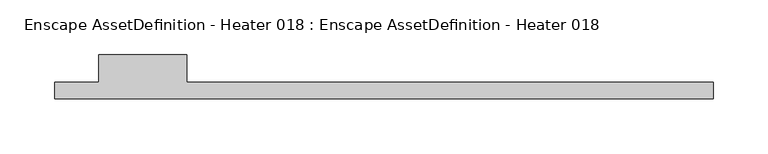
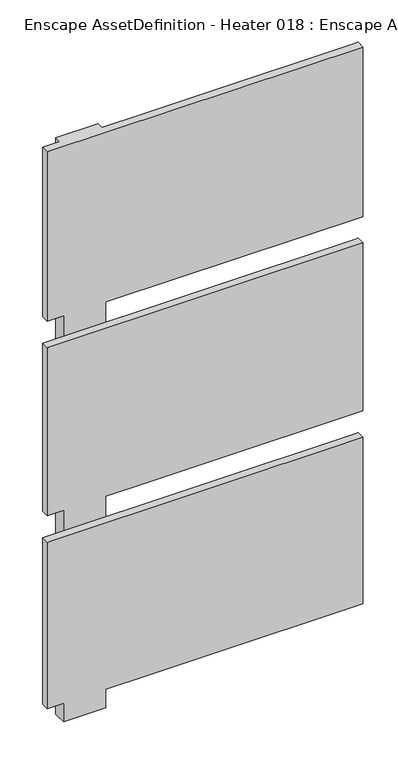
"""IFC4 building model written with IfcOpenShell, lengths in millimetres: geographic element geometry, Enscape AssetDefinition - Heater 018 : Enscape AssetDefinition - Heater 018."""

from ifc_helpers import new_model, si_unit, origin, place, context, project, spatial, triangles, source, transform, mapped, element, save


def enscape_assetdefinition_heater_018_enscape_assetdefinition_5c8a2fdc(model_context):
    return source(origin(), model_context, "Body", "Tessellation", [
        triangles([(-259.9999911, 0.0, 1156.0000059), (-180.000005, -25.0000002, 0.0), (-180.000005, -25.0000002, 1156.0000059), (-259.9999911, -25.0000002, 1156.0000059), (-259.9999911, -25.0000002, 0.0), (-180.000005, 0.0, 0.0), (-259.9999911, 0.0, 0.0), (-180.000005, 0.0, 1156.0000059), (300.0000205, -25.0000002, 825.9999453), (-300.0000205, -25.0000002, 1165.9999769), (-300.0000205, -25.0000002, 825.9999453), (-300.0000205, -39.9999976, 825.9999453), (300.0000205, -25.0000002, 1165.9999769), (300.0000205, -39.9999976, 1165.9999769), (300.0000205, -39.9999976, 825.9999453), (-300.0000205, -39.9999976, 1165.9999769), (-300.0000205, -25.0000002, 772.9999826), (-300.0000205, -39.9999976, 436.0010033), (300.0000205, -39.9999976, 436.0010033), (-300.0000205, -25.0000002, 436.0010033), (300.0000205, -25.0000002, 436.0010033), (300.0000205, -25.0000002, 772.9999826), (300.0000205, -39.9999976, 772.9999826), (-300.0000205, -39.9999976, 772.9999826), (-300.0000205, -25.0000002, 49.0010016), (300.0000205, -39.9999976, 49.0010016), (-300.0000205, -39.9999976, 49.0010016), (300.0000205, -25.0000002, 383.0010043), (300.0000205, -25.0000002, 49.0010016), (-300.0000205, -25.0000002, 383.0010043), (300.0000205, -39.9999976, 383.0010043), (-300.0000205, -39.9999976, 383.0010043)], [[32, 31, 28], [32, 28, 30], [27, 32, 30], [26, 32, 27], [26, 31, 32], [29, 31, 26], [29, 28, 31], [27, 30, 25], [25, 28, 29], [25, 30, 28], [25, 26, 27], [25, 29, 26], [19, 24, 18], [19, 23, 24], [21, 23, 19], [24, 23, 22], [21, 22, 23], [24, 22, 17], [18, 24, 17], [19, 20, 21], [19, 18, 20], [18, 17, 20], [20, 22, 21], [20, 17, 22], [15, 16, 12], [15, 14, 16], [9, 14, 15], [9, 13, 14], [13, 16, 14], [13, 10, 16], [12, 16, 10], [15, 11, 9], [15, 12, 11], [12, 10, 11], [11, 13, 9], [11, 10, 13], [8, 4, 3], [8, 1, 4], [7, 2, 5], [7, 6, 2], [2, 4, 5], [2, 3, 4], [6, 3, 2], [6, 8, 3], [7, 8, 6], [7, 1, 8], [5, 1, 7], [5, 4, 1]]),
    ])


if __name__ == "__main__":
    model = new_model("IFC4")
    model_context = context("Model", 3, world=origin())
    ifc_project = project(units=[si_unit("LENGTHUNIT", "METRE", prefix="MILLI")], contexts=[model_context])
    site = spatial("IfcSite", under=ifc_project)
    building = spatial("IfcBuilding", under=site)
    placement = place(None, origin())
    enscape_assetdefinition_heater_018_enscape_assetdefinition_shape = enscape_assetdefinition_heater_018_enscape_assetdefinition_5c8a2fdc(model_context)
    element("IfcGeographicElement", 1, ObjectType="Enscape AssetDefinition - Heater 018 : Enscape AssetDefinition - Heater 018", at=placement, inside=building, context=model_context, shape_type="MappedRepresentation", body=[
        mapped(enscape_assetdefinition_heater_018_enscape_assetdefinition_shape, transform((0.0, 0.0, 0.0), x_axis=(1.0, 0.0, 0.0), y_axis=(0.0, 1.0, 0.0), z_axis=(0.0, 0.0, 1.0))),
    ])
    save(model, "model.ifc")
